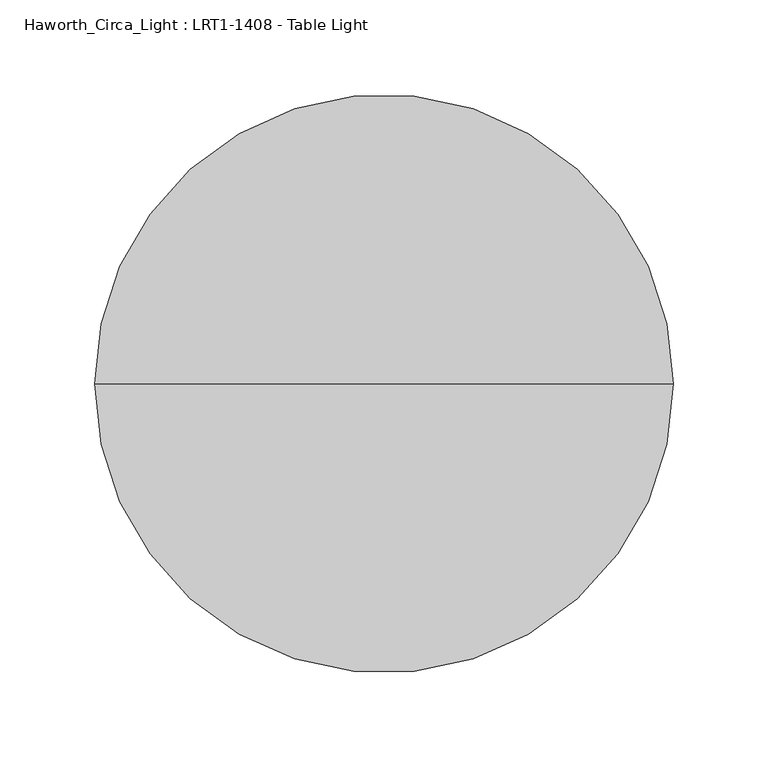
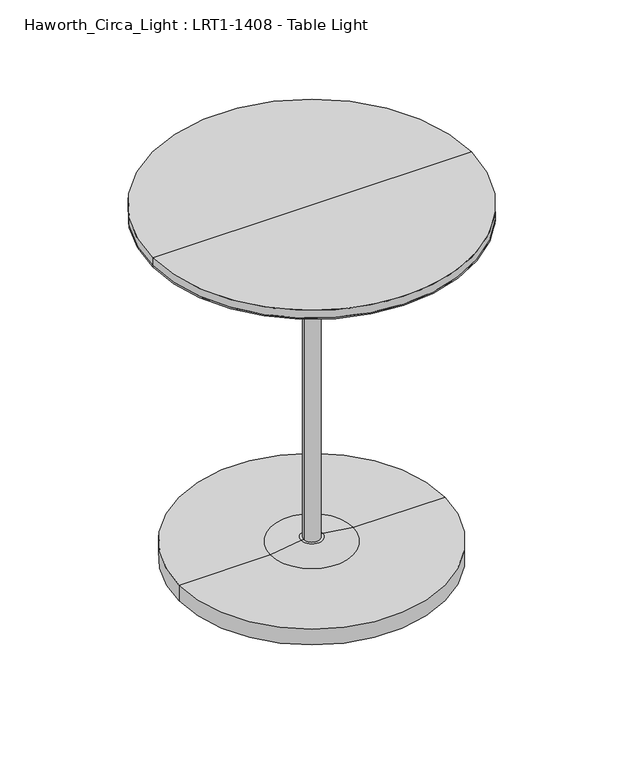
"""IFC4 building model written with IfcOpenShell, lengths in millimetres: light fixture geometry, Haworth_Circa_Light : LRT1-1408 - Table Light."""

from ifc_helpers import new_model, si_unit, frame, origin, place, context, project, spatial, polyline, circle_curve, source, transform, mapped, element, save
from ifc_brep_helpers import plane_surface, cylinder_surface, revolved_surface, advanced_brep


def haworth_circa_light_lrt1_1408_table_light_ecc5e699(model_context):
    return source(origin(), model_context, "Body", "AdvancedBrep", [
        advanced_brep(
        [(-122.9713699, 224.2532085, 1135.1022747), (181.8286301, 224.2532085, 1135.1022747), (181.8286301, 224.2532085, 1133.852351), (-122.9713699, 224.2532085, 1133.852351), (-27.7213699, 224.2532085, 1135.1022747), (86.5786301, 224.2532085, 1135.1022747), (-27.7213699, 224.2532085, 1133.852351), (86.5786301, 224.2532085, 1133.852351)],
        [
            (0, 1, circle_curve(frame((29.4286301, 224.2532085, 1135.1022747), z_axis=(0.0, 0.0, -1.0), x_axis=(1.0, 0.0, 0.0)), 152.4)),
            (1, 2),
            (2, 3, circle_curve(frame((29.4286301, 224.2532085, 1133.852351), z_axis=(0.0, 0.0, 1.0), x_axis=(1.0, 0.0, 0.0)), 152.4)),
            (3, 0),
            (1, 0, circle_curve(frame((29.4286301, 224.2532085, 1135.1022747), z_axis=(0.0, 0.0, -1.0), x_axis=(1.0, 0.0, 0.0)), 152.4)),
            (3, 2, circle_curve(frame((29.4286301, 224.2532085, 1133.852351), z_axis=(0.0, 0.0, 1.0), x_axis=(1.0, 0.0, 0.0)), 152.4)),
            (4, 5, circle_curve(frame((29.4286301, 224.2532085, 1135.1022747), z_axis=(0.0, 0.0, -1.0), x_axis=(1.0, 0.0, 0.0)), 57.15)),
            (5, 1),
            (0, 4),
            (5, 4, circle_curve(frame((29.4286301, 224.2532085, 1135.1022747), z_axis=(0.0, 0.0, -1.0), x_axis=(1.0, 0.0, 0.0)), 57.15)),
            (6, 7, circle_curve(frame((29.4286301, 224.2532085, 1133.852351), z_axis=(0.0, 0.0, -1.0), x_axis=(1.0, 0.0, 0.0)), 57.15)),
            (7, 5),
            (4, 6),
            (7, 6, circle_curve(frame((29.4286301, 224.2532085, 1133.852351), z_axis=(0.0, 0.0, -1.0), x_axis=(1.0, 0.0, 0.0)), 57.15)),
            (2, 7),
            (6, 3),
        ],
        [
            cylinder_surface(frame((29.4286301, 224.2532085, 1179.5522747), z_axis=(0.0, 0.0, 1.0), x_axis=(1.0, 0.0, 0.0)), 152.4),
            plane_surface(frame((29.4286301, 224.2532085, 1135.1022747), z_axis=(0.0, 0.0, 1.0), x_axis=(1.0, 0.0, 0.0))),
            revolved_surface(polyline([(86.5786301, 224.2532085, 1135.1022747), (86.5786301, 224.2532085, 1133.852351)]), (29.4286301, 224.2532085, 1179.5522747), (0.0, 0.0, 1.0)),
            plane_surface(frame((29.4286301, 224.2532085, 1133.852351), z_axis=(0.0, 0.0, -1.0), x_axis=(1.0, 0.0, 0.0))),
        ],
        [
            (0, [[1, 2, 3, 4]]),
            (0, [[5, -4, 6, -2]]),
            (1, [[7, 8, -1, 9]]),
            (1, [[10, -9, -5, -8]]),
            (2, [[11, 12, -7, 13]]),
            (2, [[14, -13, -10, -12]]),
            (3, [[-3, 15, -11, 16]]),
            (3, [[-6, -16, -14, -15]]),
        ],
    ),
        advanced_brep(
        [(-122.9713699, 224.2532085, 1135.1022747), (181.8286301, 224.2532085, 1135.1022747), (86.5786301, 224.2532085, 1135.1022747), (-27.7213699, 224.2532085, 1135.1022747), (-122.9713699, 224.2532085, 1143.0), (181.8286301, 224.2532085, 1143.0), (29.4286301, 224.2532085, 1143.0), (21.8095618, 224.2532085, 1128.1498415), (37.0476983, 224.2532085, 1128.1498415), (29.4286301, 224.2532085, 1128.1498415), (-27.7213699, 224.2532085, 1133.852351), (86.5786301, 224.2532085, 1133.852351)],
        [
            (0, 1, circle_curve(frame((29.4286301, 224.2532085, 1135.1022747), z_axis=(0.0, 0.0, -1.0), x_axis=(1.0, 0.0, 0.0)), 152.4)),
            (1, 2),
            (2, 3, circle_curve(frame((29.4286301, 224.2532085, 1135.1022747), z_axis=(0.0, 0.0, 1.0), x_axis=(1.0, 0.0, 0.0)), 57.15)),
            (3, 0),
            (1, 0, circle_curve(frame((29.4286301, 224.2532085, 1135.1022747), z_axis=(0.0, 0.0, -1.0), x_axis=(1.0, 0.0, 0.0)), 152.4)),
            (3, 2, circle_curve(frame((29.4286301, 224.2532085, 1135.1022747), z_axis=(0.0, 0.0, 1.0), x_axis=(1.0, 0.0, 0.0)), 57.15)),
            (4, 5, circle_curve(frame((29.4286301, 224.2532085, 1143.0), z_axis=(0.0, 0.0, -1.0), x_axis=(1.0, 0.0, 0.0)), 152.4)),
            (5, 1),
            (0, 4),
            (5, 4, circle_curve(frame((29.4286301, 224.2532085, 1143.0), z_axis=(0.0, 0.0, -1.0), x_axis=(1.0, 0.0, 0.0)), 152.4)),
            (6, 5),
            (4, 6),
            (7, 8, circle_curve(frame((29.4286301, 224.2532085, 1128.1498415), z_axis=(0.0, 0.0, -1.0), x_axis=(1.0, 0.0, 0.0)), 7.6190682)),
            (8, 9),
            (9, 7),
            (8, 7, circle_curve(frame((29.4286301, 224.2532085, 1128.1498415), z_axis=(0.0, 0.0, -1.0), x_axis=(1.0, 0.0, 0.0)), 7.6190682)),
            (10, 11, circle_curve(frame((29.4286301, 224.2532085, 1133.852351), z_axis=(0.0, 0.0, -1.0), x_axis=(1.0, 0.0, 0.0)), 57.15)),
            (11, 8),
            (7, 10),
            (11, 10, circle_curve(frame((29.4286301, 224.2532085, 1133.852351), z_axis=(0.0, 0.0, -1.0), x_axis=(1.0, 0.0, 0.0)), 57.15)),
            (2, 11),
            (10, 3),
        ],
        [
            plane_surface(frame((29.4286301, 224.2532085, 1135.1022747), z_axis=(0.0, 0.0, -1.0), x_axis=(1.0, 0.0, 0.0))),
            cylinder_surface(frame((29.4286301, 224.2532085, 1200.15), z_axis=(0.0, 0.0, 1.0), x_axis=(1.0, 0.0, 0.0)), 152.4),
            plane_surface(frame((29.4286301, 224.2532085, 1143.0), z_axis=(0.0, 0.0, 1.0), x_axis=(1.0, 0.0, 0.0))),
            plane_surface(frame((29.4286301, 224.2532085, 1128.1498415), z_axis=(0.0, 0.0, -1.0), x_axis=(1.0, 0.0, 0.0))),
            revolved_surface(polyline([(37.0476983, 224.2532085, 1128.1498415), (86.5786301, 224.2532085, 1133.852351)]), (29.4286301, 224.2532085, 1200.15), (0.0, 0.0, 1.0)),
            cylinder_surface(frame((29.4286301, 224.2532085, 1200.15), z_axis=(0.0, 0.0, 1.0), x_axis=(1.0, 0.0, 0.0)), 57.15),
        ],
        [
            (0, [[1, 2, 3, 4]]),
            (0, [[5, -4, 6, -2]]),
            (1, [[7, 8, -1, 9]]),
            (1, [[10, -9, -5, -8]]),
            (2, [[11, -7, 12]]),
            (2, [[-12, -10, -11]]),
            (3, [[13, 14, 15]]),
            (3, [[16, -15, -14]]),
            (4, [[17, 18, -13, 19]]),
            (4, [[20, -19, -16, -18]]),
            (5, [[-3, 21, -17, 22]]),
            (5, [[-6, -22, -20, -21]]),
        ],
    ),
        advanced_brep(
        [(21.8095618, 224.2532085, 781.05), (37.0476983, 224.2532085, 781.05), (29.4286301, 224.2532085, 781.05), (21.8095618, 224.2532085, 1136.65), (37.0476983, 224.2532085, 1136.65), (29.4286301, 224.2532085, 1136.65)],
        [
            (0, 1, circle_curve(frame((29.4286301, 224.2532085, 781.05), z_axis=(0.0, 0.0, -1.0), x_axis=(1.0, 0.0, 0.0)), 7.6190682)),
            (1, 2),
            (2, 0),
            (1, 0, circle_curve(frame((29.4286301, 224.2532085, 781.05), z_axis=(0.0, 0.0, -1.0), x_axis=(1.0, 0.0, 0.0)), 7.6190682)),
            (3, 4, circle_curve(frame((29.4286301, 224.2532085, 1136.65), z_axis=(0.0, 0.0, -1.0), x_axis=(1.0, 0.0, 0.0)), 7.6190682)),
            (4, 1),
            (0, 3),
            (4, 3, circle_curve(frame((29.4286301, 224.2532085, 1136.65), z_axis=(0.0, 0.0, -1.0), x_axis=(1.0, 0.0, 0.0)), 7.6190682)),
            (5, 4),
            (3, 5),
        ],
        [
            plane_surface(frame((29.4286301, 224.2532085, 781.05), z_axis=(0.0, 0.0, -1.0), x_axis=(1.0, 0.0, 0.0))),
            cylinder_surface(frame((29.4286301, 224.2532085, 1254.125), z_axis=(0.0, 0.0, 1.0), x_axis=(1.0, 0.0, 0.0)), 7.6190682),
            plane_surface(frame((29.4286301, 224.2532085, 1136.65), z_axis=(0.0, 0.0, 1.0), x_axis=(1.0, 0.0, 0.0))),
        ],
        [
            (0, [[1, 2, 3]]),
            (0, [[4, -3, -2]]),
            (1, [[5, 6, -1, 7]]),
            (1, [[8, -7, -4, -6]]),
            (2, [[9, -5, 10]]),
            (2, [[-10, -8, -9]]),
        ],
    ),
        advanced_brep(
        [(-97.5713699, 224.2532085, 787.4), (156.4286301, 224.2532085, 787.4), (29.4286301, 224.2532085, 787.4), (-10.3844077, 224.2532085, 803.3060002), (69.2416679, 224.2532085, 803.3060002), (156.4286301, 224.2532085, 803.3060002), (-97.5713699, 224.2532085, 803.3060002), (18.882059, 224.2532085, 807.8218745), (39.9752012, 224.2532085, 807.8218745), (29.4286301, 224.2532085, 807.8218745)],
        [
            (0, 1, circle_curve(frame((29.4286301, 224.2532085, 787.4), z_axis=(0.0, 0.0, -1.0), x_axis=(1.0, 0.0, 0.0)), 127.0)),
            (1, 2),
            (2, 0),
            (1, 0, circle_curve(frame((29.4286301, 224.2532085, 787.4), z_axis=(0.0, 0.0, -1.0), x_axis=(1.0, 0.0, 0.0)), 127.0)),
            (3, 4, circle_curve(frame((29.4286301, 224.2532085, 803.3060002), z_axis=(0.0, 0.0, -1.0), x_axis=(1.0, 0.0, 0.0)), 39.8130378)),
            (4, 5),
            (5, 6, circle_curve(frame((29.4286301, 224.2532085, 803.3060002), z_axis=(0.0, 0.0, 1.0), x_axis=(1.0, 0.0, 0.0)), 127.0)),
            (6, 3),
            (4, 3, circle_curve(frame((29.4286301, 224.2532085, 803.3060002), z_axis=(0.0, 0.0, -1.0), x_axis=(1.0, 0.0, 0.0)), 39.8130378)),
            (6, 5, circle_curve(frame((29.4286301, 224.2532085, 803.3060002), z_axis=(0.0, 0.0, 1.0), x_axis=(1.0, 0.0, 0.0)), 127.0)),
            (5, 1),
            (0, 6),
            (7, 8, circle_curve(frame((29.4286301, 224.2532085, 807.8218745), z_axis=(0.0, 0.0, -1.0), x_axis=(1.0, 0.0, 0.0)), 10.5465711)),
            (8, 4),
            (3, 7),
            (8, 7, circle_curve(frame((29.4286301, 224.2532085, 807.8218745), z_axis=(0.0, 0.0, -1.0), x_axis=(1.0, 0.0, 0.0)), 10.5465711)),
            (9, 8),
            (7, 9),
        ],
        [
            plane_surface(frame((29.4286301, 224.2532085, 787.4), z_axis=(0.0, 0.0, -1.0), x_axis=(1.0, 0.0, 0.0))),
            plane_surface(frame((29.4286301, 224.2532085, 803.3060002), z_axis=(0.0, 0.0, 1.0), x_axis=(1.0, 0.0, 0.0))),
            cylinder_surface(frame((29.4286301, 224.2532085, 847.3344776), z_axis=(0.0, 0.0, 1.0), x_axis=(1.0, 0.0, 0.0)), 127.0),
            revolved_surface(polyline([(69.2416679, 224.2532085, 803.3060002), (39.9752012, 224.2532085, 807.8218745)]), (29.4286301, 224.2532085, 847.3344776), (0.0, 0.0, 1.0)),
            plane_surface(frame((29.4286301, 224.2532085, 807.8218745), z_axis=(0.0, 0.0, 1.0), x_axis=(1.0, 0.0, 0.0))),
        ],
        [
            (0, [[1, 2, 3]]),
            (0, [[4, -3, -2]]),
            (1, [[5, 6, 7, 8]]),
            (1, [[9, -8, 10, -6]]),
            (2, [[-7, 11, -1, 12]]),
            (2, [[-10, -12, -4, -11]]),
            (3, [[13, 14, -5, 15]]),
            (3, [[16, -15, -9, -14]]),
            (4, [[17, -13, 18]]),
            (4, [[-18, -16, -17]]),
        ],
    ),
    ])


if __name__ == "__main__":
    model = new_model("IFC4")
    model_context = context("Model", 3, world=origin())
    ifc_project = project(units=[si_unit("LENGTHUNIT", "METRE", prefix="MILLI")], contexts=[model_context])
    site = spatial("IfcSite", under=ifc_project)
    building = spatial("IfcBuilding", under=site)
    placement = place(None, origin())
    haworth_circa_light_lrt1_1408_table_light_shape = haworth_circa_light_lrt1_1408_table_light_ecc5e699(model_context)
    element("IfcLightFixture", 1, ObjectType="Haworth_Circa_Light : LRT1-1408 - Table Light", at=placement, inside=building, context=model_context, shape_type="MappedRepresentation", body=[
        mapped(haworth_circa_light_lrt1_1408_table_light_shape, transform((0.0, 0.0, 0.0), x_axis=(1.0, 0.0, 0.0), y_axis=(0.0, 1.0, 0.0), z_axis=(0.0, 0.0, 1.0))),
    ])
    save(model, "model.ifc")
